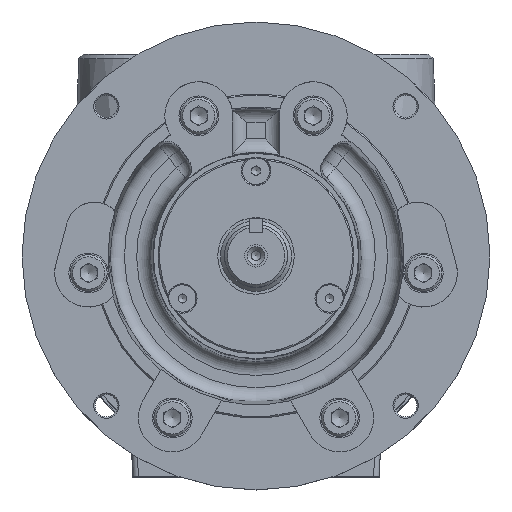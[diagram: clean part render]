
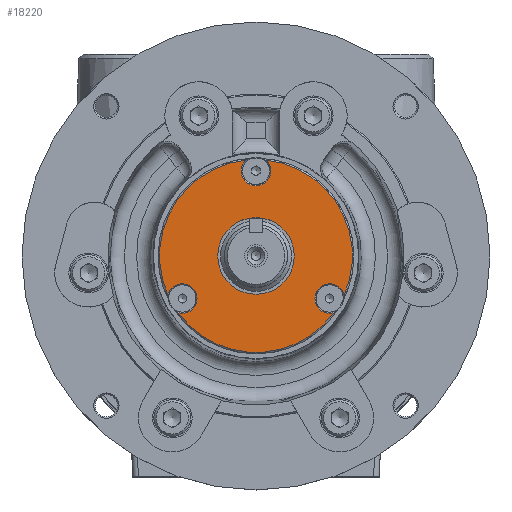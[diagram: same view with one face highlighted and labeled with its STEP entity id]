
A CAD part, top view. The second image highlights one B-rep face of the part: STEP entity #18220.
In plain terms, the highlighted planar face has unit normal (0, 0, 1).
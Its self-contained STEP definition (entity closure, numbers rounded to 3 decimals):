
#243 = VERTEX_POINT ( 'NONE', #19616 ) ;
#1081 = CARTESIAN_POINT ( 'NONE',  ( 0., 6., 84.15 ) ) ;
#1389 = DIRECTION ( 'NONE',  ( 0., 0., 1. ) ) ;
#2263 = ORIENTED_EDGE ( 'NONE', *, *, #3663, .F. ) ;
#2614 = VERTEX_POINT ( 'NONE', #19813 ) ;
#3121 = VERTEX_POINT ( 'NONE', #5976 ) ;
#3340 = DIRECTION ( 'NONE',  ( 0., 0., 1. ) ) ;
#3422 = EDGE_CURVE ( 'NONE', #13656, #2614, #26975, .T. ) ;
#3589 = CIRCLE ( 'NONE', #22927, 5.2 ) ;
#3663 = EDGE_CURVE ( 'NONE', #243, #243, #18386, .T. ) ;
#3915 = CARTESIAN_POINT ( 'NONE',  ( -3.532, 39.816, 84.15 ) ) ;
#4809 = CIRCLE ( 'NONE', #9670, 34. ) ;
#5385 = DIRECTION ( 'NONE',  ( 0., 0., 1. ) ) ;
#5976 = CARTESIAN_POINT ( 'NONE',  ( -31.052, -7.849, 84.15 ) ) ;
#7365 = DIRECTION ( 'NONE',  ( 0., 0., -1. ) ) ;
#8240 = DIRECTION ( 'NONE',  ( 1., 0., 0. ) ) ;
#9216 = CIRCLE ( 'NONE', #18887, 34. ) ;
#9586 = PLANE ( 'NONE',  #20893 ) ;
#9670 = AXIS2_PLACEMENT_3D ( 'NONE', #15001, #15415, #11429 ) ;
#9982 = DIRECTION ( 'NONE',  ( 0., 0., -1. ) ) ;
#11332 = CIRCLE ( 'NONE', #20571, 5.2 ) ;
#11356 = EDGE_CURVE ( 'NONE', #3121, #23883, #9216, .T. ) ;
#11429 = DIRECTION ( 'NONE',  ( -1., 0., 0. ) ) ;
#11688 = DIRECTION ( 'NONE',  ( 1., 0., 0. ) ) ;
#11947 = EDGE_CURVE ( 'NONE', #13907, #13656, #4809, .T. ) ;
#12135 = AXIS2_PLACEMENT_3D ( 'NONE', #20428, #9982, #26811 ) ;
#13656 = VERTEX_POINT ( 'NONE', #20561 ) ;
#13907 = VERTEX_POINT ( 'NONE', #15665 ) ;
#15001 = CARTESIAN_POINT ( 'NONE',  ( 0., 6., 84.15 ) ) ;
#15040 = AXIS2_PLACEMENT_3D ( 'NONE', #15822, #3340, #11688 ) ;
#15415 = DIRECTION ( 'NONE',  ( 0., 0., -1. ) ) ;
#15572 = ORIENTED_EDGE ( 'NONE', *, *, #16262, .F. ) ;
#15665 = CARTESIAN_POINT ( 'NONE',  ( 3.532, 39.816, 84.15 ) ) ;
#15760 = ORIENTED_EDGE ( 'NONE', *, *, #23331, .F. ) ;
#15822 = CARTESIAN_POINT ( 'NONE',  ( 25.981, -9., 84.15 ) ) ;
#16262 = EDGE_CURVE ( 'NONE', #2614, #23042, #17860, .T. ) ;
#16622 = AXIS2_PLACEMENT_3D ( 'NONE', #20067, #5385, #25885 ) ;
#16688 = ORIENTED_EDGE ( 'NONE', *, *, #3422, .F. ) ;
#17703 = FACE_BOUND ( 'NONE', #24314, .T. ) ;
#17859 = DIRECTION ( 'NONE',  ( 1., 0., 0. ) ) ;
#17860 = CIRCLE ( 'NONE', #12135, 34. ) ;
#17983 = DIRECTION ( 'NONE',  ( -1., 0., 0. ) ) ;
#18220 = ADVANCED_FACE ( 'NONE', ( #19633, #17703 ), #9586, .F. ) ;
#18386 = CIRCLE ( 'NONE', #16622, 13.5 ) ;
#18887 = AXIS2_PLACEMENT_3D ( 'NONE', #1081, #7365, #26266 ) ;
#18991 = CARTESIAN_POINT ( 'NONE',  ( 0., 36., 84.15 ) ) ;
#19616 = CARTESIAN_POINT ( 'NONE',  ( 13.5, 6., 84.15 ) ) ;
#19633 = FACE_OUTER_BOUND ( 'NONE', #19877, .T. ) ;
#19813 = CARTESIAN_POINT ( 'NONE',  ( 27.519, -13.967, 84.15 ) ) ;
#19877 = EDGE_LOOP ( 'NONE', ( #19938, #15760, #15572, #16688, #25743, #24730 ) ) ;
#19938 = ORIENTED_EDGE ( 'NONE', *, *, #11356, .F. ) ;
#20067 = CARTESIAN_POINT ( 'NONE',  ( 0., 6., 84.15 ) ) ;
#20091 = CARTESIAN_POINT ( 'NONE',  ( -27.519, -13.967, 84.15 ) ) ;
#20428 = CARTESIAN_POINT ( 'NONE',  ( 0., 6., 84.15 ) ) ;
#20462 = CARTESIAN_POINT ( 'NONE',  ( -25.981, -9., 84.15 ) ) ;
#20561 = CARTESIAN_POINT ( 'NONE',  ( 31.052, -7.849, 84.15 ) ) ;
#20571 = AXIS2_PLACEMENT_3D ( 'NONE', #20462, #1389, #17859 ) ;
#20893 = AXIS2_PLACEMENT_3D ( 'NONE', #21983, #26412, #17983 ) ;
#21983 = CARTESIAN_POINT ( 'NONE',  ( 0., 19.5, 84.15 ) ) ;
#22927 = AXIS2_PLACEMENT_3D ( 'NONE', #18991, #23259, #8240 ) ;
#23042 = VERTEX_POINT ( 'NONE', #20091 ) ;
#23259 = DIRECTION ( 'NONE',  ( 0., 0., 1. ) ) ;
#23331 = EDGE_CURVE ( 'NONE', #23042, #3121, #11332, .T. ) ;
#23883 = VERTEX_POINT ( 'NONE', #3915 ) ;
#24314 = EDGE_LOOP ( 'NONE', ( #2263 ) ) ;
#24730 = ORIENTED_EDGE ( 'NONE', *, *, #25696, .F. ) ;
#25696 = EDGE_CURVE ( 'NONE', #23883, #13907, #3589, .T. ) ;
#25743 = ORIENTED_EDGE ( 'NONE', *, *, #11947, .F. ) ;
#25885 = DIRECTION ( 'NONE',  ( 1., 0., 0. ) ) ;
#26266 = DIRECTION ( 'NONE',  ( -1., 0., 0. ) ) ;
#26412 = DIRECTION ( 'NONE',  ( 0., 0., -1. ) ) ;
#26811 = DIRECTION ( 'NONE',  ( -1., 0., 0. ) ) ;
#26975 = CIRCLE ( 'NONE', #15040, 5.2 ) ;
